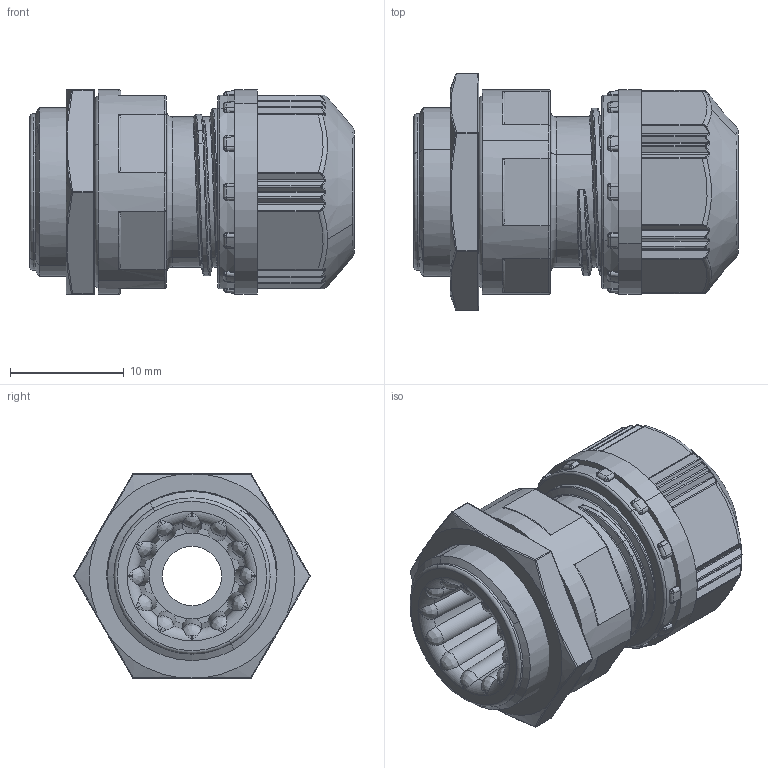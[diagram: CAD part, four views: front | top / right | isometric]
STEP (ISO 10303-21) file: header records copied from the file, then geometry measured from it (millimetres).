
FILE_DESCRIPTION(('Creo Elements/Direct Modeling STEP Export'),'2;1');
FILE_NAME('H05-0016-CL903-02_OA-W15M-05.stp','2021-09-09T10:52:50',(''),(''),'Creo Elements/Direct Modeling STEP processor for AP214 (Solid Model)','Creo Elements/Direct Modeling 20.3B 05-Dec-2020 (C) Parametric Technology GmbH','');
FILE_SCHEMA(('AUTOMOTIVE_DESIGN { 1 0 10303 214 1 1 1 1 }'));
Length unit declared in the file: millimetre
Products named in the file (4): Locknut; Nipple_etc; Rubber Bushing; OA-W15M-05
Assembly tree (3 placements, depth 2):
  OA-W15M-05
    Rubber Bushing
    Nipple_etc
    Locknut
Bounding box: 28.5 x 20.75 x 18 mm (x, y, z)
Volume: 4995.9 mm3; surface area: 4434 mm2
Topology: 3 solids, 3 shells, 673 faces, 1723 edges, 1059 vertices
Faces by surface type: bspline 267, cylinder 165, plane 135, torus 60, cone 40, sphere 6
Entity records: 46264 total; most frequent: CARTESIAN_POINT 33484, ORIENTED_EDGE 3430, EDGE_CURVE 1715, DIRECTION 1520, VERTEX_POINT 1059, B_SPLINE_CURVE_WITH_KNOTS 705, EDGE_LOOP 690, FACE_OUTER_BOUND 673
